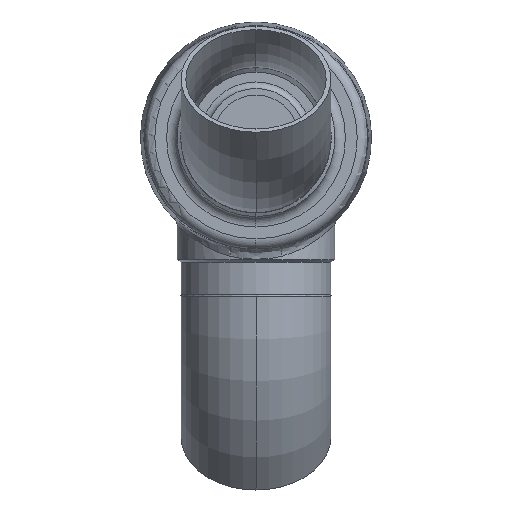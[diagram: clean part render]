
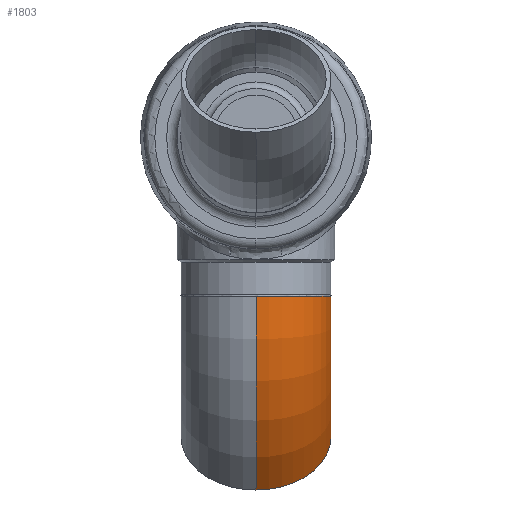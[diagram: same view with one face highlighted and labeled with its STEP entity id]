
A CAD part, front view. The second image highlights one B-rep face of the part: STEP entity #1803.
In plain terms, the highlighted toroidal (fillet/blend) face has major radius 152 mm and minor radius 57.15 mm.
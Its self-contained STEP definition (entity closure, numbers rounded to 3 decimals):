
#16651 = FACE_OUTER_BOUND ( 'NONE', #1636, .T. ) ;
#16652 = TOROIDAL_SURFACE ( 'NONE', #16653, 152., 57.15 ) ;
#16653 = AXIS2_PLACEMENT_3D ( 'NONE', #16654, #16655, #16656 ) ;
#16654 = CARTESIAN_POINT ( 'NONE',  ( 0., -152., 0. ) ) ;
#16655 = DIRECTION ( 'NONE',  ( 0., 0., 1. ) ) ;
#16656 = DIRECTION ( 'NONE',  ( 1., 0., 0. ) ) ;
#274 = EDGE_CURVE ( 'NONE', #4568, #4779, #11125, .T. ) ;
#634 = ORIENTED_EDGE ( 'NONE', *, *, #274, .F. ) ;
#17123 = CARTESIAN_POINT ( 'NONE',  ( 0., -57.15, 0. ) ) ;
#1134 = ORIENTED_EDGE ( 'NONE', *, *, #3706, .F. ) ;
#17853 = EDGE_CURVE ( 'NONE', #2411, #3489, #18660, .T. ) ;
#1636 = EDGE_LOOP ( 'NONE', ( #1134, #634, #18711, #18216 ) ) ;
#1803 = ADVANCED_FACE ( 'NONE', ( #16651 ), #16652, .T. ) ;
#18216 = ORIENTED_EDGE ( 'NONE', *, *, #17853, .T. ) ;
#18654 = CARTESIAN_POINT ( 'NONE',  ( 0., 57.15, 0. ) ) ;
#18660 = CIRCLE ( 'NONE', #18661, 57.15 ) ;
#18661 = AXIS2_PLACEMENT_3D ( 'NONE', #18662, #18663, #18664 ) ;
#18662 = CARTESIAN_POINT ( 'NONE',  ( 0., 0., 0. ) ) ;
#18663 = DIRECTION ( 'NONE',  ( 1., 0., 0. ) ) ;
#18664 = DIRECTION ( 'NONE',  ( 0., 0., -1. ) ) ;
#18711 = ORIENTED_EDGE ( 'NONE', *, *, #10683, .T. ) ;
#2411 = VERTEX_POINT ( 'NONE', #17123 ) ;
#2954 = CIRCLE ( 'NONE', #2955, 209.15 ) ;
#2955 = AXIS2_PLACEMENT_3D ( 'NONE', #2956, #2957, #2958 ) ;
#2956 = CARTESIAN_POINT ( 'NONE',  ( 0., -152., 0. ) ) ;
#2957 = DIRECTION ( 'NONE',  ( 0., 0., 1. ) ) ;
#2958 = DIRECTION ( 'NONE',  ( 1., 0., 0. ) ) ;
#3489 = VERTEX_POINT ( 'NONE', #18654 ) ;
#3706 = EDGE_CURVE ( 'NONE', #4779, #3489, #2954, .T. ) ;
#4568 = VERTEX_POINT ( 'NONE', #5672 ) ;
#4779 = VERTEX_POINT ( 'NONE', #5801 ) ;
#5672 = CARTESIAN_POINT ( 'NONE',  ( 67.069, -84.931, 0. ) ) ;
#5801 = CARTESIAN_POINT ( 'NONE',  ( 147.891, -4.109, 0. ) ) ;
#10683 = EDGE_CURVE ( 'NONE', #4568, #2411, #14001, .T. ) ;
#11125 = CIRCLE ( 'NONE', #11126, 57.15 ) ;
#11126 = AXIS2_PLACEMENT_3D ( 'NONE', #11127, #11146, #11147 ) ;
#11127 = CARTESIAN_POINT ( 'NONE',  ( 107.48, -44.52, 0. ) ) ;
#11146 = DIRECTION ( 'NONE',  ( 0.707, -0.707, 0. ) ) ;
#11147 = DIRECTION ( 'NONE',  ( 0., 0., -1. ) ) ;
#14001 = CIRCLE ( 'NONE', #14007, 94.85 ) ;
#14007 = AXIS2_PLACEMENT_3D ( 'NONE', #14008, #14009, #14010 ) ;
#14008 = CARTESIAN_POINT ( 'NONE',  ( 0., -152., 0. ) ) ;
#14009 = DIRECTION ( 'NONE',  ( 0., 0., 1. ) ) ;
#14010 = DIRECTION ( 'NONE',  ( 1., 0., 0. ) ) ;
